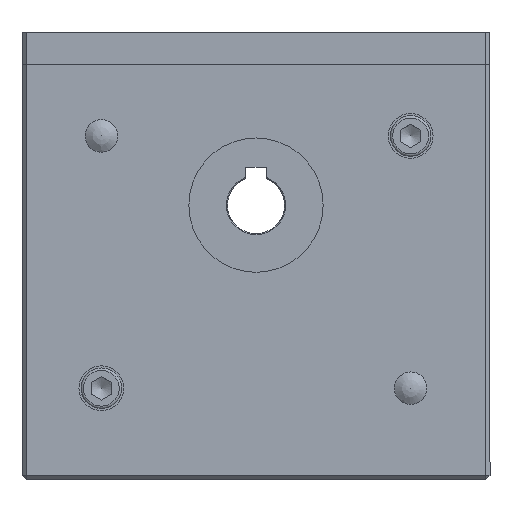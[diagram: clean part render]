
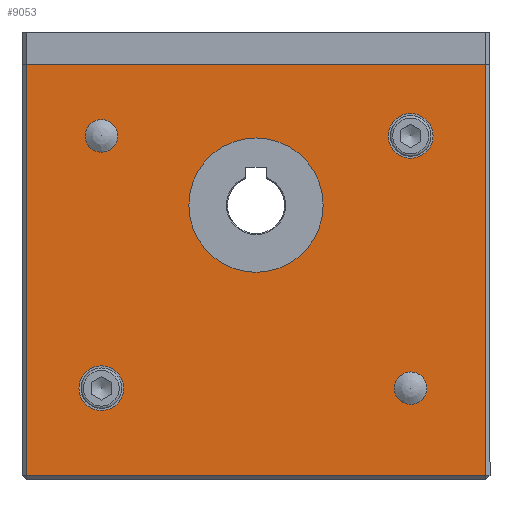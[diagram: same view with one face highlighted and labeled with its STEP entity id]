
A CAD part, front view. The second image highlights one B-rep face of the part: STEP entity #9053.
In plain terms, the highlighted free-form (B-spline) face has degree [1, 1] with [2, 2] control points.
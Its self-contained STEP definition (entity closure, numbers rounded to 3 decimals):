
#7229=CARTESIAN_POINT('',(45.0,22.5,22.5));
#7230=VERTEX_POINT('',#7229);
#7231=CARTESIAN_POINT('',(45.0,22.5,19.5));
#7232=DIRECTION('',(-1.0,0.0,0.0));
#7233=DIRECTION('',(0.0,0.0,-1.0));
#7234=AXIS2_PLACEMENT_3D('',#7231,#7232,#7233);
#7235=CIRCLE('',#7234,3.);
#7236=EDGE_CURVE('',#7230,#7230,#7235,.T.);
#7257=CARTESIAN_POINT('',(45.,84.5,98.5));
#7258=VERTEX_POINT('',#7257);
#7259=CARTESIAN_POINT('',(45.,84.5,95.5));
#7260=DIRECTION('',(-1.0,0.0,0.0));
#7261=DIRECTION('',(0.0,0.0,-1.0));
#7262=AXIS2_PLACEMENT_3D('',#7259,#7260,#7261);
#7263=CIRCLE('',#7262,3.);
#7264=EDGE_CURVE('',#7258,#7258,#7263,.T.);
#7306=CARTESIAN_POINT('',(45.,90.,19.5));
#7307=VERTEX_POINT('',#7306);
#7308=CARTESIAN_POINT('',(45.,84.5,19.5));
#7309=DIRECTION('',(-1.0,0.0,0.0));
#7310=DIRECTION('',(0.0,1.0,0.0));
#7311=AXIS2_PLACEMENT_3D('',#7308,#7309,#7310);
#7312=CIRCLE('',#7311,5.5);
#7313=EDGE_CURVE('',#7307,#7307,#7312,.T.);
#7375=CARTESIAN_POINT('',(45.0,28.,95.5));
#7376=VERTEX_POINT('',#7375);
#7377=CARTESIAN_POINT('',(45.0,22.5,95.5));
#7378=DIRECTION('',(-1.0,0.0,0.0));
#7379=DIRECTION('',(0.0,1.0,0.0));
#7380=AXIS2_PLACEMENT_3D('',#7377,#7378,#7379);
#7381=CIRCLE('',#7380,5.5);
#7382=EDGE_CURVE('',#7376,#7376,#7381,.T.);
#8839=CARTESIAN_POINT('',(45.,67.5,41.0));
#8840=VERTEX_POINT('',#8839);
#8841=CARTESIAN_POINT('',(45.,67.5,57.5));
#8842=DIRECTION('',(1.0,0.0,0.0));
#8843=DIRECTION('',(0.0,0.0,1.0));
#8844=AXIS2_PLACEMENT_3D('',#8841,#8842,#8843);
#8845=CIRCLE('',#8844,16.5);
#8846=EDGE_CURVE('',#8840,#8840,#8845,.T.);
#8858=CARTESIAN_POINT('',(45.0,1.,114.0));
#8859=VERTEX_POINT('',#8858);
#8888=CARTESIAN_POINT('',(45.0,1.,1.0));
#8889=VERTEX_POINT('',#8888);
#8911=CARTESIAN_POINT('',(45.,102.,1.0));
#8912=VERTEX_POINT('',#8911);
#8919=CARTESIAN_POINT('',(45.0,1.,1.0));
#8920=DIRECTION('',(0.0,1.0,0.0));
#8921=VECTOR('',#8920,101.);
#8922=LINE('',#8919,#8921);
#8923=EDGE_CURVE('',#8889,#8912,#8922,.T.);
#8960=CARTESIAN_POINT('',(45.0,1.,114.0));
#8961=DIRECTION('',(0.0,0.0,-1.0));
#8962=VECTOR('',#8961,113.0);
#8963=LINE('',#8960,#8962);
#8964=EDGE_CURVE('',#8859,#8889,#8963,.T.);
#8998=CARTESIAN_POINT('',(45.,102.,114.0));
#8999=VERTEX_POINT('',#8998);
#9013=CARTESIAN_POINT('',(45.,102.,114.0));
#9014=DIRECTION('',(0.0,-1.0,0.0));
#9015=VECTOR('',#9014,101.);
#9016=LINE('',#9013,#9015);
#9017=EDGE_CURVE('',#8999,#8859,#9016,.T.);
#9022=CARTESIAN_POINT('',(45.,102.,1.0));
#9023=CARTESIAN_POINT('',(45.,102.,114.0));
#9024=CARTESIAN_POINT('',(45.0,1.0,1.0));
#9025=CARTESIAN_POINT('',(45.0,1.0,114.0));
#9026=B_SPLINE_SURFACE_WITH_KNOTS('',1,1,((#9022,#9024),(#9023,#9025)),.UNSPECIFIED.,.F.,.F.,.U.,(2,2),(2,2),(0.0,113.0),(0.0,101.),.UNSPECIFIED.);
#9027=ORIENTED_EDGE('',*,*,#8923,.T.);
#9028=CARTESIAN_POINT('',(45.,102.,1.0));
#9029=DIRECTION('',(0.0,0.0,1.0));
#9030=VECTOR('',#9029,113.0);
#9031=LINE('',#9028,#9030);
#9032=EDGE_CURVE('',#8912,#8999,#9031,.T.);
#9033=ORIENTED_EDGE('',*,*,#9032,.T.);
#9034=ORIENTED_EDGE('',*,*,#9017,.T.);
#9035=ORIENTED_EDGE('',*,*,#8964,.T.);
#9036=EDGE_LOOP('',(#9027,#9033,#9034,#9035));
#9037=FACE_OUTER_BOUND('',#9036,.T.);
#9038=ORIENTED_EDGE('',*,*,#7236,.T.);
#9039=EDGE_LOOP('',(#9038));
#9040=FACE_BOUND('',#9039,.T.);
#9041=ORIENTED_EDGE('',*,*,#7264,.T.);
#9042=EDGE_LOOP('',(#9041));
#9043=FACE_BOUND('',#9042,.T.);
#9044=ORIENTED_EDGE('',*,*,#7313,.T.);
#9045=EDGE_LOOP('',(#9044));
#9046=FACE_BOUND('',#9045,.T.);
#9047=ORIENTED_EDGE('',*,*,#7382,.T.);
#9048=EDGE_LOOP('',(#9047));
#9049=FACE_BOUND('',#9048,.T.);
#9050=ORIENTED_EDGE('',*,*,#8846,.F.);
#9051=EDGE_LOOP('',(#9050));
#9052=FACE_BOUND('',#9051,.T.);
#9053=ADVANCED_FACE('',(#9037,#9040,#9043,#9046,#9049,#9052),#9026,.T.);
